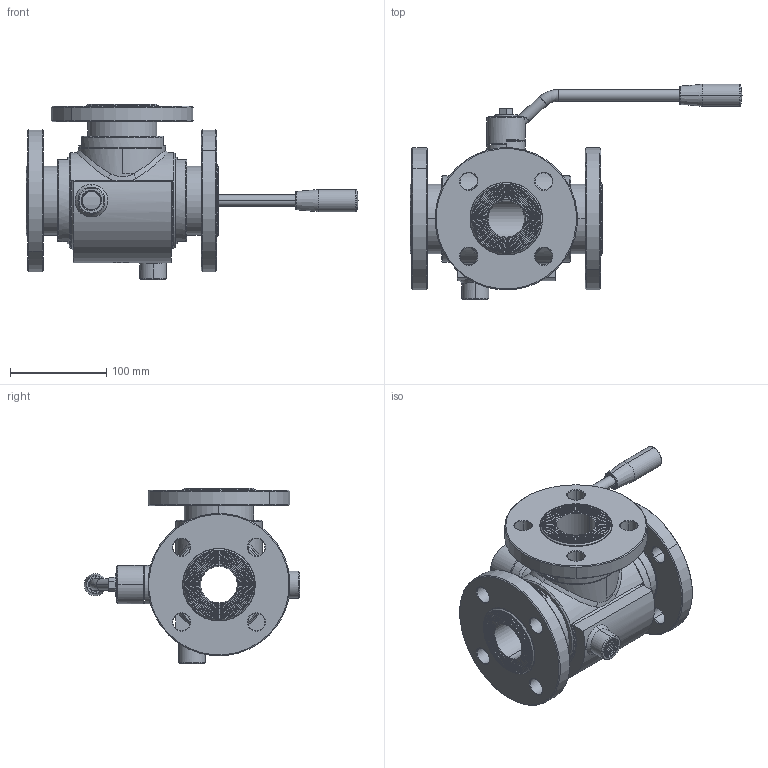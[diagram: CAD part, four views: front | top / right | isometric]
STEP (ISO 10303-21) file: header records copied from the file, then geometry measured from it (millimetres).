
FILE_DESCRIPTION((''),'2;1');
FILE_NAME('300150C63410_SW0001','2026-06-24T15:33:32',('tecnico2'),('CDM Tecnoconsulting'),'CREO PARAMETRIC BY PTC INC, 2024063','CREO PARAMETRIC BY PTC INC, 2024063','');
FILE_SCHEMA(('CONFIG_CONTROL_DESIGN','SHAPE_APPEARANCE_LAYERS_GROUPS'));
Products named in the file (1): 300150C63410_SW0001
Bounding box: 345 x 224 x 182 mm (x, y, z)
Volume: 1863788.4 mm3; surface area: 363281.1 mm2
Topology: 1 solids, 1 shells, 1438 faces, 3777 edges, 2421 vertices
Faces by surface type: plane 538, cylinder 329, cone 217, extrusion 162, bspline 96, torus 92, sphere 4
Entity records: 97256 total; most frequent: CARTESIAN_POINT 45439, ORIENTED_EDGE 7518, DIRECTION 6266, PRESENTATION_STYLE_ASSIGNMENT 4764, STYLED_ITEM 3922, CURVE_STYLE 3921, EDGE_CURVE 3759, VERTEX_POINT 2421
